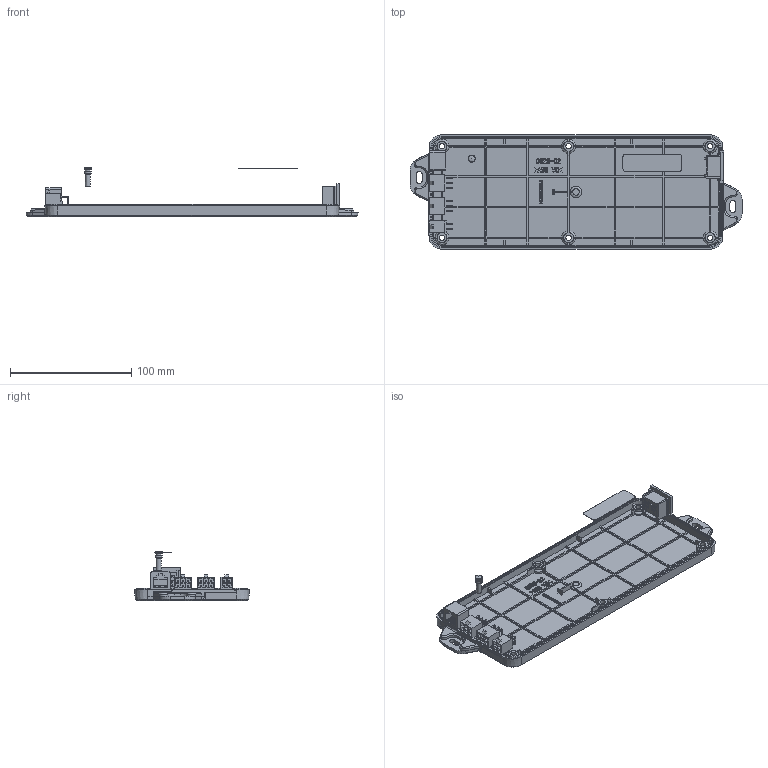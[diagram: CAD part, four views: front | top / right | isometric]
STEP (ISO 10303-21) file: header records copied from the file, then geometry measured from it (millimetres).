
FILE_DESCRIPTION(/* description */ ('Unknown'),/* implementation_level */ '2;1');
FILE_NAME(/* name */ '124.00802_00',/* time_stamp */ '2025-11-06T11:21:58+01:00',/* author */ ('Unknown'),/* organization */ ('Unknown'),/* preprocessor_version */ 'ST-DEVELOPER v20',/* originating_system */ 'Solid Edge',/* authorisation */ 'Unknown');
FILE_SCHEMA (('PROCESS_PLANNING_SCHEMA','AUTOMOTIVE_DESIGN {1 0 10303 214 3 1 1}'));
Products named in the file (1): 124.00802
Bounding box: 274.09 x 94.39 x 40.5 mm (x, y, z)
Volume: 93721.8 mm3; surface area: 77115.4 mm2
Topology: 8 solids, 9 shells, 1525 faces, 4087 edges, 2695 vertices
Faces by surface type: plane 1113, bspline 162, cone 115, cylinder 95, torus 37, sphere 3
Full cylindrical faces by diameter (mm): 2.36 x2, 3.55 x2, 3.9 x2, 4.36 x2, 5.9 x2
Entity records: 59761 total; most frequent: CARTESIAN_POINT 13582, ORIENTED_EDGE 8164, DIRECTION 6384, EDGE_CURVE 4082, LINE 2912, VECTOR 2912, VERTEX_POINT 2695, AXIS2_PLACEMENT_3D 1736
